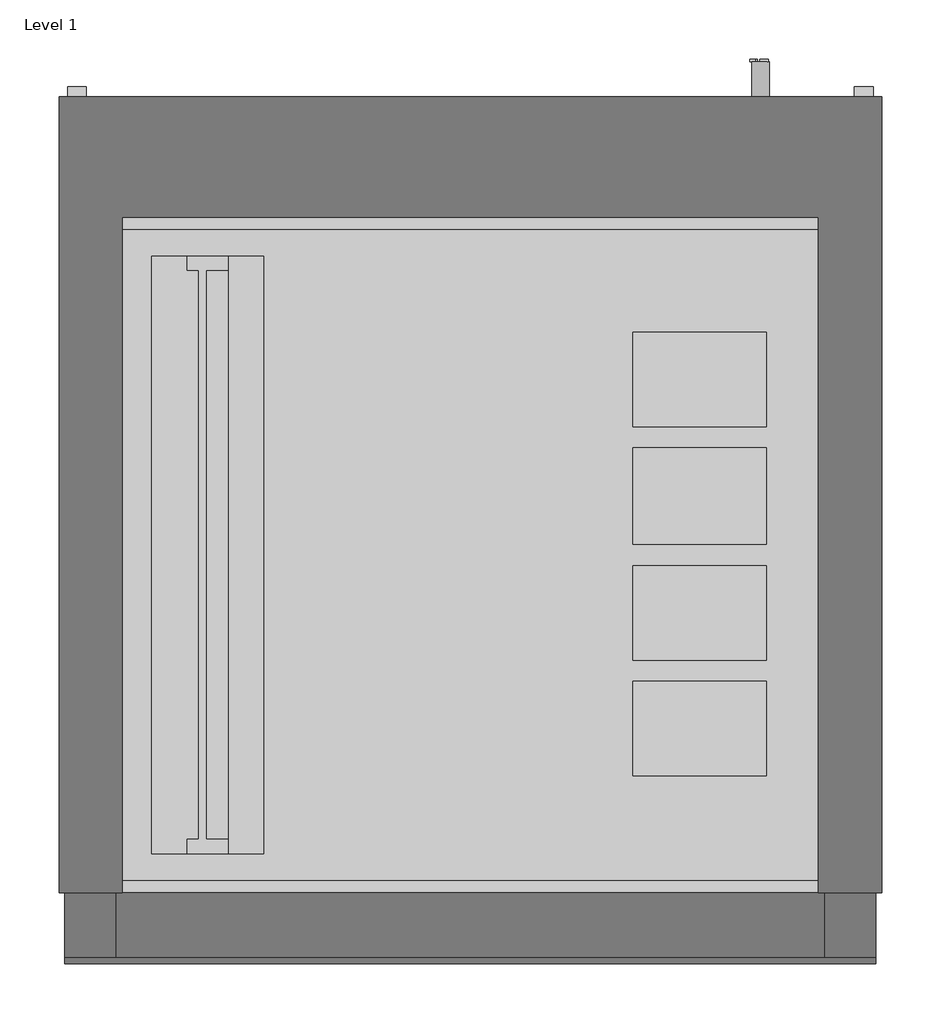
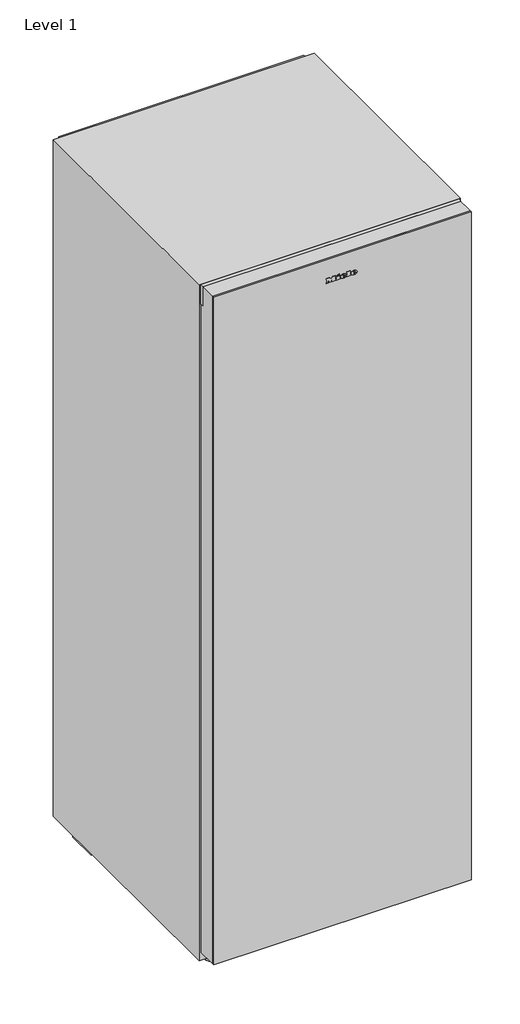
# One storey: 1 proxy.
"""IFC4 building model written with IfcOpenShell, lengths in millimetres."""

from ifc_helpers import new_model, si_unit, origin, place, context, project, spatial, transform, mapped, element, save
from components import specialty_equipment_a5f2656a, specialty_equipment_9db27f2a

model = new_model("IFC4")

# Units and contexts
model_context = context("Model", 3, world=origin())
ifc_project = project(units=[si_unit("LENGTHUNIT", "METRE", prefix="MILLI")], contexts=[model_context])

# Site, building, storey
site = spatial("IfcSite", under=ifc_project)
building = spatial("IfcBuilding", under=site)
storey = spatial("IfcBuildingStorey", under=building, Name="Level 1", Elevation=0.0)

# Proxy
placement = place(None, origin())
specialty_equipment_shape = specialty_equipment_a5f2656a(model_context)
specialty_equipment_2_shape = specialty_equipment_9db27f2a(model_context)
element("IfcBuildingElementProxy", 1, Name="10423090_OER_KWT6834SGS : 36683400_OER_10423090_KWT6834SGS", ObjectType="10423090_OER_KWT6834SGS : 36683400_OER_10423090_KWT6834SGS", at=placement, inside=storey, context=model_context, shape_type="MappedRepresentation", body=[
    mapped(specialty_equipment_shape, transform((0.0, 0.0, 0.0), x_axis=(1.0, 0.0, 0.0), y_axis=(0.0, 1.0, 0.0), z_axis=(0.0, 0.0, 1.0))),
    mapped(specialty_equipment_2_shape, transform((0.0, 0.0, 0.0), x_axis=(1.0, 0.0, 0.0), y_axis=(0.0, 1.0, 0.0), z_axis=(0.0, 0.0, 1.0))),
])

save(model, "model.ifc")
